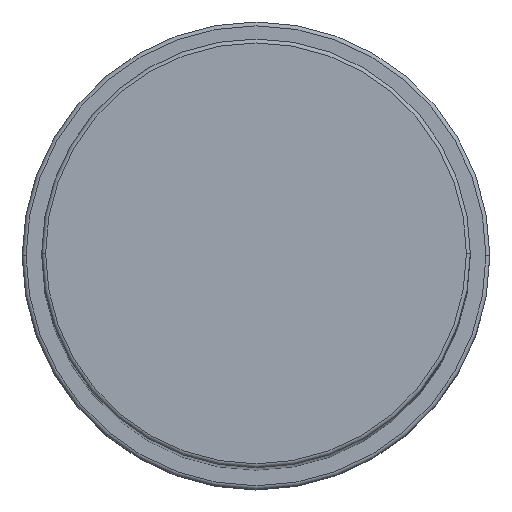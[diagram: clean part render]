
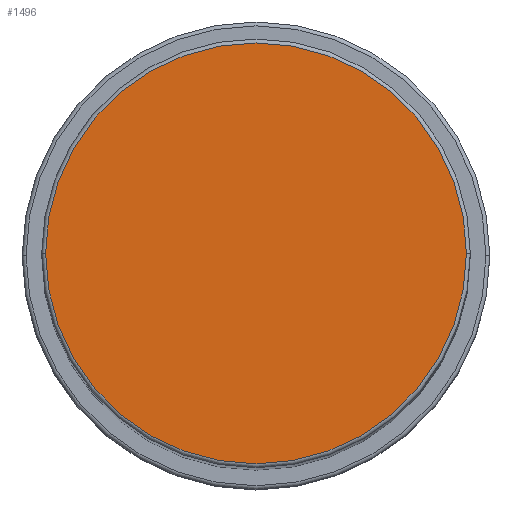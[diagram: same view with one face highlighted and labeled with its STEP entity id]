
A CAD part, top view. The second image highlights one B-rep face of the part: STEP entity #1496.
In plain terms, the highlighted planar face has unit normal (0, 0, 1).
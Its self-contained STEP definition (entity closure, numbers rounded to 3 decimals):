
#244 = VERTEX_POINT ( 'NONE', #599 ) ;
#309 = AXIS2_PLACEMENT_3D ( 'NONE', #667, #950, #973 ) ;
#337 = CARTESIAN_POINT ( 'NONE',  ( -27., 0., 193. ) ) ;
#448 = DIRECTION ( 'NONE',  ( 0., 0., 1. ) ) ;
#486 = FACE_OUTER_BOUND ( 'NONE', #723, .T. ) ;
#599 = CARTESIAN_POINT ( 'NONE',  ( 27., 0., 193. ) ) ;
#667 = CARTESIAN_POINT ( 'NONE',  ( 0., 0., 193. ) ) ;
#723 = EDGE_LOOP ( 'NONE', ( #1635, #1237 ) ) ;
#901 = CARTESIAN_POINT ( 'NONE',  ( 0., 0., 193. ) ) ;
#945 = EDGE_CURVE ( 'NONE', #1785, #244, #1968, .T. ) ;
#950 = DIRECTION ( 'NONE',  ( 0., 0., 1. ) ) ;
#973 = DIRECTION ( 'NONE',  ( 1., 0., 0. ) ) ;
#1104 = DIRECTION ( 'NONE',  ( 1., 0., 0. ) ) ;
#1237 = ORIENTED_EDGE ( 'NONE', *, *, #945, .T. ) ;
#1275 = CARTESIAN_POINT ( 'NONE',  ( 0., 0., 193. ) ) ;
#1315 = EDGE_CURVE ( 'NONE', #244, #1785, #1877, .T. ) ;
#1425 = PLANE ( 'NONE',  #1996 ) ;
#1496 = ADVANCED_FACE ( 'NONE', ( #486 ), #1425, .T. ) ;
#1572 = DIRECTION ( 'NONE',  ( 0., 0., 1. ) ) ;
#1635 = ORIENTED_EDGE ( 'NONE', *, *, #1315, .T. ) ;
#1669 = AXIS2_PLACEMENT_3D ( 'NONE', #901, #448, #1842 ) ;
#1785 = VERTEX_POINT ( 'NONE', #337 ) ;
#1842 = DIRECTION ( 'NONE',  ( 1., 0., 0. ) ) ;
#1877 = CIRCLE ( 'NONE', #1669, 27. ) ;
#1968 = CIRCLE ( 'NONE', #309, 27. ) ;
#1996 = AXIS2_PLACEMENT_3D ( 'NONE', #1275, #1572, #1104 ) ;
